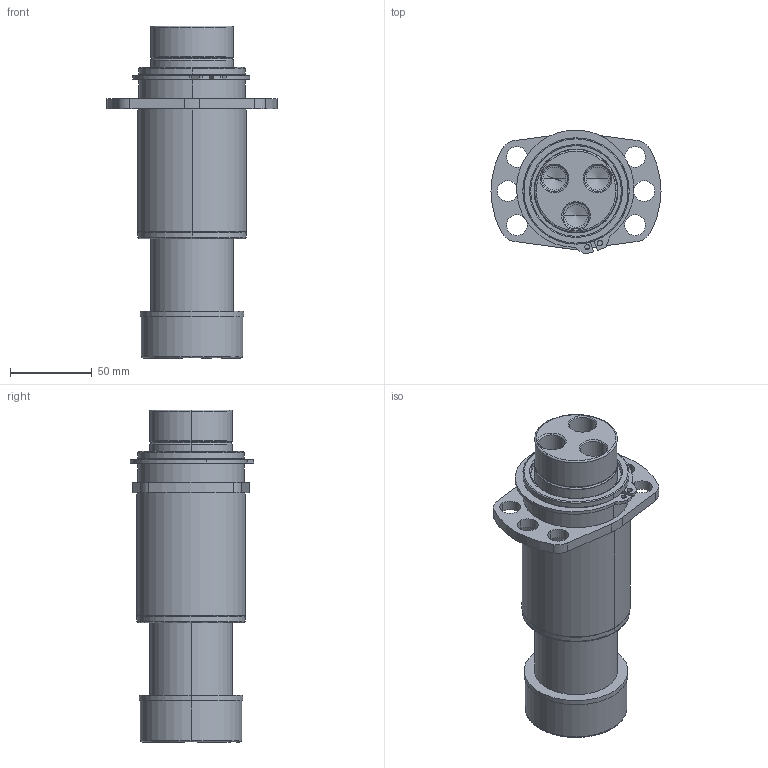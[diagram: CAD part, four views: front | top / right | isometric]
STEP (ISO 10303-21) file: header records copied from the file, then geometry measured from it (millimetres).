
FILE_DESCRIPTION (( 'STEP AP214' ), '1' );
FILE_NAME ('GK205-L4-M-XXX.STEP', '2020-09-22T13:20:26', ( '' ), ( '' ), 'SwSTEP 2.0', 'SolidWorks 2017', '' );
FILE_SCHEMA (( 'AUTOMOTIVE_DESIGN' ));
Length unit declared in the file: inch
Products named in the file (7): GK205-DampeningWasher; GK205-M-XXX-GuidePin; GK205-L4-M-XXX; GK2.00-L4-M-Base; RetainingRing-GK2.00-L-M
Assembly tree (6 placements, depth 3):
  GK205-L4-M-XXX
    GK2.00-L4-M-Base
      GK2.00-L4-M-Base
      RetainingRing-GK2.00-L-M
    GK205-M-XXX-GuidePin
      GK205-M-XXX-GuidePin
      GK205-DampeningWasher
Bounding box: 104.14 x 75.86 x 203.2 mm (x, y, z)
Volume: 578541.3 mm3; surface area: 99874.5 mm2
Topology: 4 solids, 4 shells, 141 faces, 337 edges, 207 vertices
Faces by surface type: cylinder 71, cone 26, plane 24, bspline 20
Entity records: 5007 total; most frequent: CARTESIAN_POINT 1246, DIRECTION 775, ORIENTED_EDGE 662, EDGE_CURVE 331, AXIS2_PLACEMENT_3D 324, VERTEX_POINT 207, CIRCLE 192, EDGE_LOOP 170
